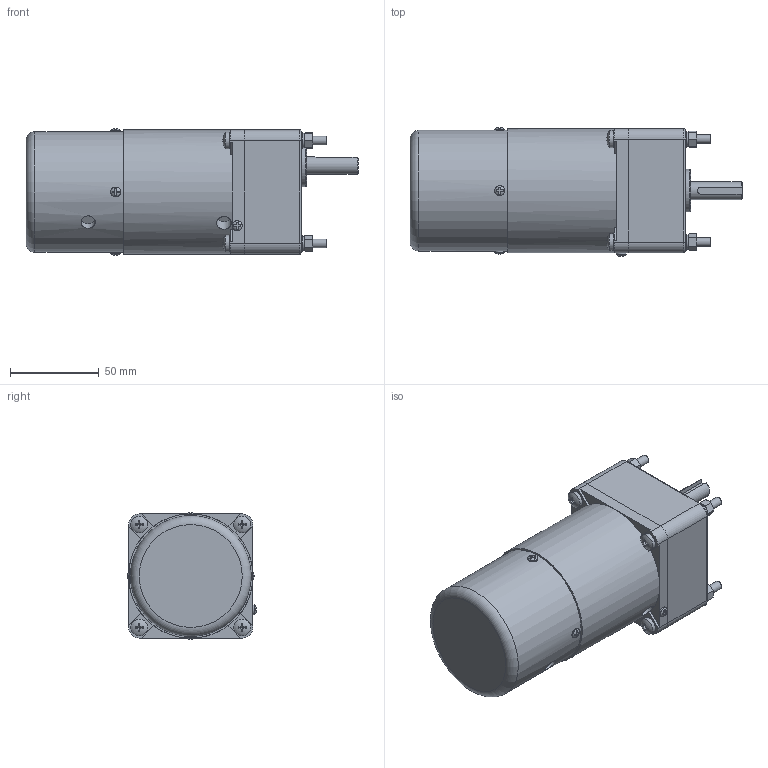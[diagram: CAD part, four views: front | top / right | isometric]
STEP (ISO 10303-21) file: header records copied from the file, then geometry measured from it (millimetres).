
FILE_DESCRIPTION(/* description */ (''),/* implementation_level */ '2;1');
FILE_NAME(/* name */ '70矮箱T-15W刹车.stp',/* time_stamp */ '2022-10-31T09:03:57+08:00',/* author */ (''),/* organization */ (''),/* preprocessor_version */ 'ST-DEVELOPER v16.7',/* originating_system */ 'SIEMENS PLM Software NX 1899',/* authorisation */ '');
FILE_SCHEMA (('AP203_CONFIGURATION_CONTROLLED_3D_DESIGN_OF_MECHANICAL_PARTS_AND_ASSEMBLIES_MIM_LF { 1 0 10303 403 2 1 2}'));
Length unit declared in the file: millimetre
Products named in the file (1): yf186188FEB6lc5c
Bounding box: 187 x 72.68 x 71.28 mm (x, y, z)
Volume: 625669.6 mm3; surface area: 67000.1 mm2
Topology: 22 solids, 27 shells, 471 faces, 1125 edges, 729 vertices
Faces by surface type: plane 223, cylinder 85, bspline 80, cone 63, torus 11, sphere 9
Full cylindrical faces by diameter (mm): 2.7 x1, 4.351 x4, 4.826 x4, 5 x4, 5.3 x8, 5.6 x5, 6 x9, 8 x1, 8.3 x1, 9 x8, 9.5 x4, 10 x1, 24 x1, 63 x1, 66.6 x2, 68 x1, 70 x1
Entity records: 14963 total; most frequent: CARTESIAN_POINT 3962, ORIENTED_EDGE 2000, DIRECTION 1815, EDGE_CURVE 1000, AXIS2_PLACEMENT_3D 748, VERTEX_POINT 690, EDGE_LOOP 617, ADVANCED_FACE 471
